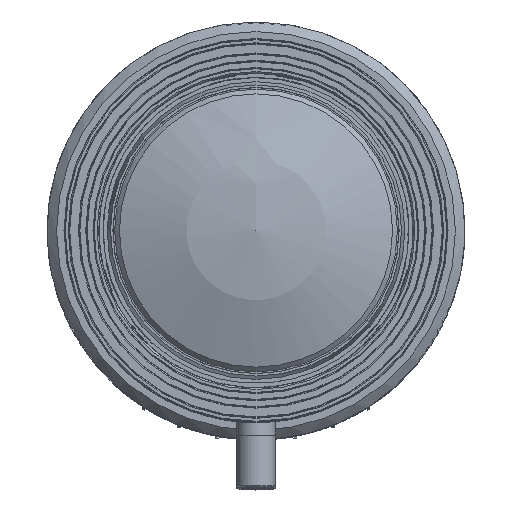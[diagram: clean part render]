
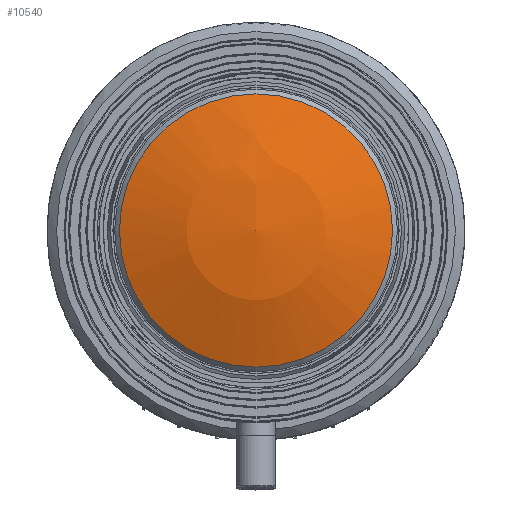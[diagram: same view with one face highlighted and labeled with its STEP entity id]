
A CAD part, top view. The second image highlights one B-rep face of the part: STEP entity #10540.
In plain terms, the highlighted spherical face has radius 36.738 mm.
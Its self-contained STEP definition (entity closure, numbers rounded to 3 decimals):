
#18=SPHERICAL_SURFACE('',#15584,36.738);
#4036=ORIENTED_EDGE('',*,*,#6336,.T.);
#6336=EDGE_CURVE('',#7646,#7646,#8339,.T.);
#7646=VERTEX_POINT('',#22783);
#8339=CIRCLE('',#15585,14.25);
#8888=EDGE_LOOP('',(#4036));
#9678=FACE_BOUND('',#8888,.T.);
#10540=ADVANCED_FACE('',(#9678),#18,.T.);
#15584=AXIS2_PLACEMENT_3D('',#22781,#17247,#17248);
#15585=AXIS2_PLACEMENT_3D('',#22782,#17249,#17250);
#17247=DIRECTION('',(0.,0.,1.));
#17248=DIRECTION('',(0.,1.,0.));
#17249=DIRECTION('',(0.,0.,1.));
#17250=DIRECTION('',(0.,-1.,0.));
#22781=CARTESIAN_POINT('',(0.,0.,34.462));
#22782=CARTESIAN_POINT('',(0.,0.,68.324));
#22783=CARTESIAN_POINT('',(0.,-14.25,68.324));
